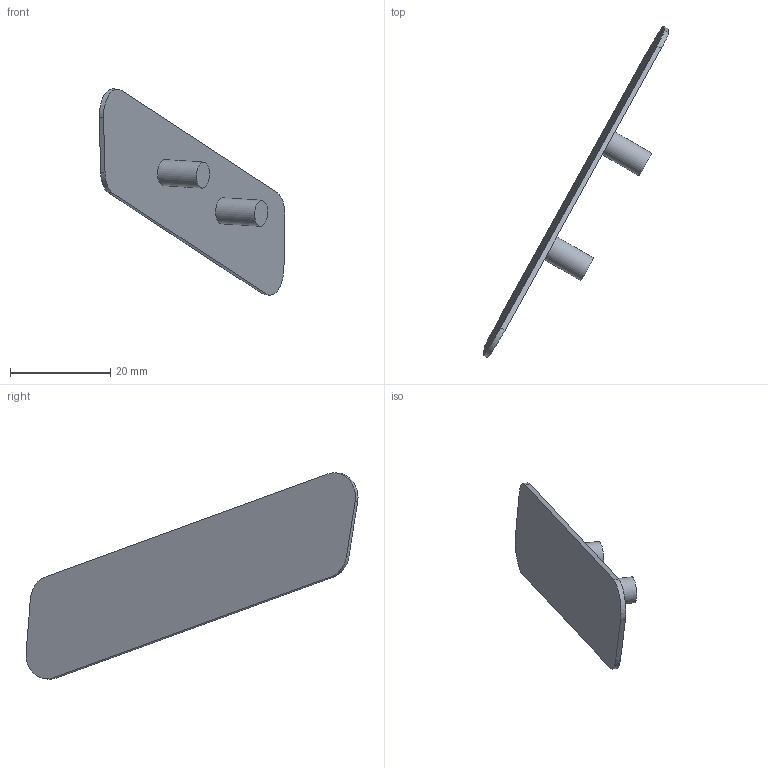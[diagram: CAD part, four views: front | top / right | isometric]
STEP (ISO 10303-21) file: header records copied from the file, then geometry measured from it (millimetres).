
FILE_DESCRIPTION(('STEP AP242 Edition 2','STEP AP242 Edition 2''CAx-IF Rec.Pracs.---Representation and Presentation of Product Manufacturing Information (PMI)---4.0---2014-10-13','STEP AP242 Edition 2''CAx-IF Rec.Pracs.---Representation and Presentation of Product Manufacturing Information (PMI)---4.0---2014-10-13''CAx-IF Rec.Pracs.---3D Tessellated Geometry---0.4---2014-09-14','STEP AP242 Edition 2''CAx-IF Rec.Pracs.---Representation and Presentation of Product Manufacturing Information (PMI)---4.0---2014-10-13''CAx-IF Rec.Pracs.---3D Tessellated Geometry---0.4---2014-09-14''2;1','STEP AP242 Edition 2''CAx-IF Rec.Pracs.---Representation and Presentation of Product Manufacturing Information (PMI)---4.0---2014-10-13''CAx-IF Rec.Pracs.---3D Tessellated Geometry---0.4---2014-09-14''2;1''CAx-IF Rec.Pracs.---User Defined Attributes---1.5---2016-08-15'),'2;1');
FILE_NAME('/vol/tmp/translate-5928582753522486027/Part Studio Body Front - Part Front Left Air Intake Side Back - Black.step','2026-05-02T13:02:34',(''),(''),'ST-DEVELOPER v20','ONSHAPE BY PTC INC, 1.214',' ');
FILE_SCHEMA(('AP242_MANAGED_MODEL_BASED_3D_ENGINEERING_MIM_LF { 1 0 10303 442 3 1 4 }'));
Length unit declared in the file: metre
Products named in the file (1): Part Front Left Air Intake Side Back - Black
Bounding box: 37.08 x 66.31 x 41.22 mm (x, y, z)
Volume: 1910.4 mm3; surface area: 3537.7 mm2
Topology: 1 solids, 1 shells, 14 faces, 30 edges, 20 vertices
Faces by surface type: plane 8, cylinder 6
Full cylindrical faces by diameter (mm): 5.2 x2
Entity records: 406 total; most frequent: DIRECTION 70, CARTESIAN_POINT 63, ORIENTED_EDGE 56, EDGE_CURVE 28, AXIS2_PLACEMENT_3D 27, VERTEX_POINT 20, EDGE_LOOP 18, FACE_BOUND 18
